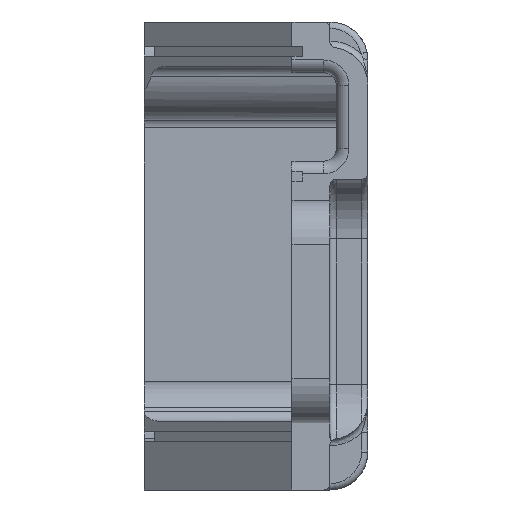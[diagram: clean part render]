
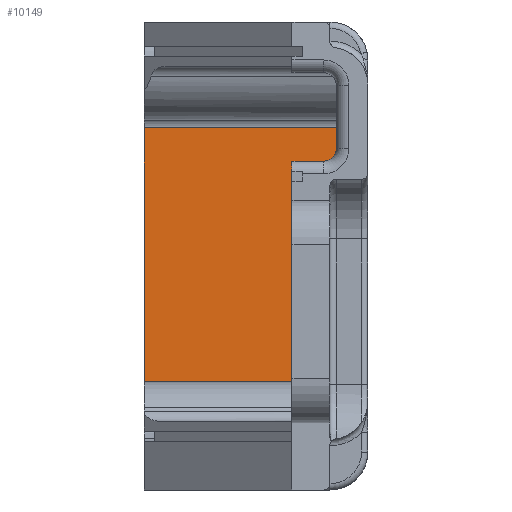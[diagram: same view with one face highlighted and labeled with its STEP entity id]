
A CAD part, front view. The second image highlights one B-rep face of the part: STEP entity #10149.
In plain terms, the highlighted planar face has unit normal (0, -1, 0).
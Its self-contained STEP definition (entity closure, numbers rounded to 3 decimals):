
#193 = VERTEX_POINT ( 'NONE', #2822 ) ;
#355 = DIRECTION ( 'NONE',  ( 1., 0., 0. ) ) ;
#848 = DIRECTION ( 'NONE',  ( 0., 0., 1. ) ) ;
#1593 = EDGE_CURVE ( 'NONE', #10059, #10212, #17399, .T. ) ;
#1951 = EDGE_CURVE ( 'NONE', #10212, #9245, #13539, .T. ) ;
#2570 = EDGE_LOOP ( 'NONE', ( #16871, #6961, #10155, #17527 ) ) ;
#2822 = CARTESIAN_POINT ( 'NONE',  ( 7.216, -70.644, -8.373 ) ) ;
#4134 = DIRECTION ( 'NONE',  ( -1., 0., 0. ) ) ;
#4601 = CARTESIAN_POINT ( 'NONE',  ( 7.216, -70.644, -7. ) ) ;
#5098 = CARTESIAN_POINT ( 'NONE',  ( 90.535, -70.644, -8.373 ) ) ;
#5424 = DIRECTION ( 'NONE',  ( 0., 1., 0. ) ) ;
#5901 = CARTESIAN_POINT ( 'NONE',  ( 90.535, -70.644, -29.298 ) ) ;
#5960 = VECTOR ( 'NONE', #355, 1000. ) ;
#6961 = ORIENTED_EDGE ( 'NONE', *, *, #1951, .T. ) ;
#9081 = LINE ( 'NONE', #5098, #17882 ) ;
#9218 = DIRECTION ( 'NONE',  ( -1., 0., 0. ) ) ;
#9245 = VERTEX_POINT ( 'NONE', #14104 ) ;
#9602 = PLANE ( 'NONE',  #11161 ) ;
#10059 = VERTEX_POINT ( 'NONE', #15254 ) ;
#10149 = ADVANCED_FACE ( 'NONE', ( #15096 ), #9602, .F. ) ;
#10155 = ORIENTED_EDGE ( 'NONE', *, *, #10409, .T. ) ;
#10212 = VERTEX_POINT ( 'NONE', #12345 ) ;
#10409 = EDGE_CURVE ( 'NONE', #9245, #193, #9081, .T. ) ;
#11161 = AXIS2_PLACEMENT_3D ( 'NONE', #12465, #5424, #4134 ) ;
#12345 = CARTESIAN_POINT ( 'NONE',  ( 22.902, -70.644, -29.298 ) ) ;
#12465 = CARTESIAN_POINT ( 'NONE',  ( 90.535, -70.644, -7. ) ) ;
#12746 = EDGE_CURVE ( 'NONE', #193, #10059, #16655, .T. ) ;
#13011 = DIRECTION ( 'NONE',  ( 0., 0., -1. ) ) ;
#13298 = CARTESIAN_POINT ( 'NONE',  ( 22.902, -70.644, -8.373 ) ) ;
#13539 = LINE ( 'NONE', #13298, #15891 ) ;
#14104 = CARTESIAN_POINT ( 'NONE',  ( 22.902, -70.644, -8.373 ) ) ;
#14522 = VECTOR ( 'NONE', #13011, 1000. ) ;
#15096 = FACE_OUTER_BOUND ( 'NONE', #2570, .T. ) ;
#15254 = CARTESIAN_POINT ( 'NONE',  ( 7.216, -70.644, -29.298 ) ) ;
#15891 = VECTOR ( 'NONE', #848, 1000. ) ;
#16655 = LINE ( 'NONE', #4601, #14522 ) ;
#16871 = ORIENTED_EDGE ( 'NONE', *, *, #1593, .T. ) ;
#17399 = LINE ( 'NONE', #5901, #5960 ) ;
#17527 = ORIENTED_EDGE ( 'NONE', *, *, #12746, .T. ) ;
#17882 = VECTOR ( 'NONE', #9218, 1000. ) ;
